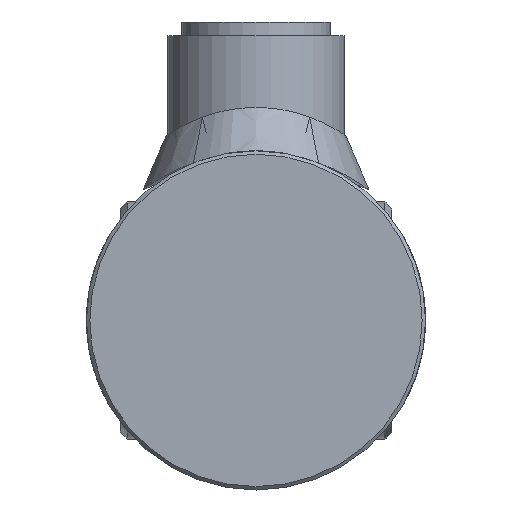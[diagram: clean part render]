
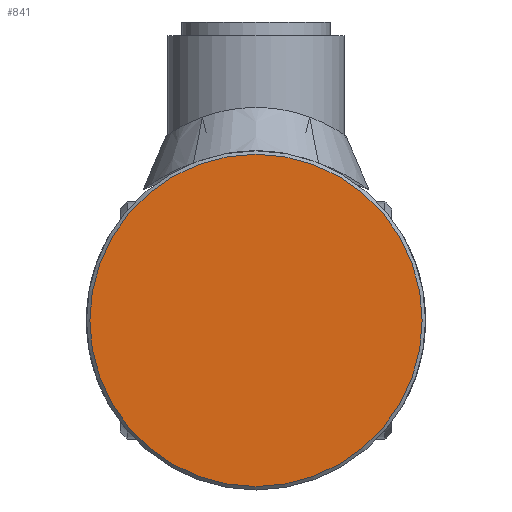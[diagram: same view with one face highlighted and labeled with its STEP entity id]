
A CAD part, left-side view. The second image highlights one B-rep face of the part: STEP entity #841.
In plain terms, the highlighted planar face has unit normal (-1, 0, 0).
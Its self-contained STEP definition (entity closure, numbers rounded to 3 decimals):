
#841 = ADVANCED_FACE( '', ( #1603 ), #1604, .T. );
#1603 = FACE_OUTER_BOUND( '', #5625, .T. );
#1604 = PLANE( '', #5626 );
#5625 = EDGE_LOOP( '', ( #8213 ) );
#5626 = AXIS2_PLACEMENT_3D( '', #8214, #8215, #8216 );
#8213 = ORIENTED_EDGE( '', *, *, #9113, .T. );
#8214 = CARTESIAN_POINT( '', ( -40., 0., 0. ) );
#8215 = DIRECTION( '', ( -1., 0., 0. ) );
#8216 = DIRECTION( '', ( 0., -1., 0. ) );
#9113 = EDGE_CURVE( '', #9897, #9897, #9898, .T. );
#9897 = VERTEX_POINT( '', #12530 );
#9898 = CIRCLE( '', #12531, 24.5 );
#12530 = CARTESIAN_POINT( '', ( -40., -24.5, 0. ) );
#12531 = AXIS2_PLACEMENT_3D( '', #13200, #13201, #13202 );
#13200 = CARTESIAN_POINT( '', ( -40., 0., 0. ) );
#13201 = DIRECTION( '', ( -1., 0., 0. ) );
#13202 = DIRECTION( '', ( 0., -1., 0. ) );
